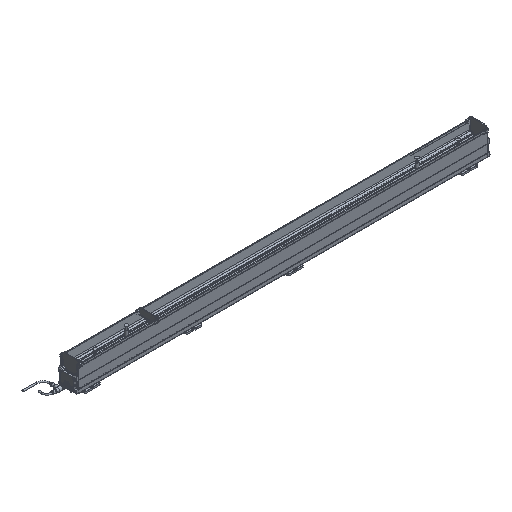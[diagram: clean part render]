
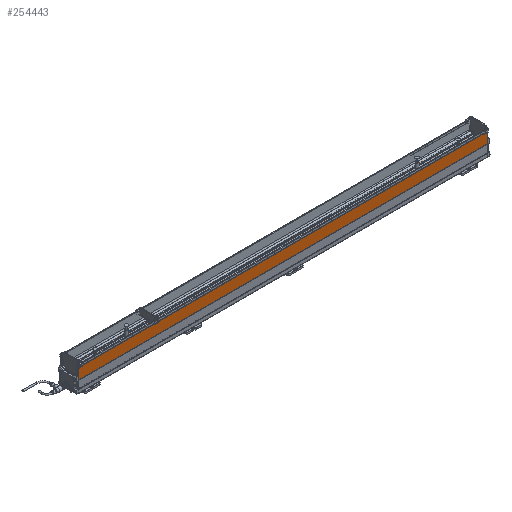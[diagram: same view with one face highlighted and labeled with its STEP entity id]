
A CAD part, isometric view. The second image highlights one B-rep face of the part: STEP entity #254443.
In plain terms, the highlighted planar face has unit normal (0, -1, 0) as drawn and (0, 1, 0) by its records, which use the part's own axes.
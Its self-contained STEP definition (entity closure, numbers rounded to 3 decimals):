
#89379=ORIENTED_EDGE('',*,*,#127226,.F.);
#89380=ORIENTED_EDGE('',*,*,#127191,.F.);
#89381=ORIENTED_EDGE('',*,*,#127225,.F.);
#89382=ORIENTED_EDGE('',*,*,#127130,.F.);
#109217=VECTOR('',#146755,1.);
#109244=VECTOR('',#146856,1.);
#109274=VECTOR('',#146950,1.);
#109275=VECTOR('',#146953,1.);
#114924=LINE('',#167367,#109217);
#114951=LINE('',#167490,#109244);
#114981=LINE('',#167556,#109274);
#114982=LINE('',#167558,#109275);
#120642=VERTEX_POINT('',#167364);
#120643=VERTEX_POINT('',#167366);
#120701=VERTEX_POINT('',#167487);
#120702=VERTEX_POINT('',#167489);
#127130=EDGE_CURVE('',#120642,#120643,#114924,.T.);
#127191=EDGE_CURVE('',#120701,#120702,#114951,.T.);
#127225=EDGE_CURVE('',#120643,#120701,#114981,.T.);
#127226=EDGE_CURVE('',#120702,#120642,#114982,.T.);
#137176=EDGE_LOOP('',(#89379,#89380,#89381,#89382));
#141866=FACE_BOUND('',#137176,.T.);
#146755=DIRECTION('',(36.287,0.,0.));
#146856=DIRECTION('',(-36.287,0.,0.));
#146950=DIRECTION('',(0.,0.,1410.));
#146951=DIRECTION('',(0.,1.,0.));
#146952=DIRECTION('',(1.,0.,0.));
#146953=DIRECTION('',(0.,0.,-1410.));
#167364=CARTESIAN_POINT('',(-29.322,15.,-1285.));
#167366=CARTESIAN_POINT('',(6.965,15.,-1285.));
#167367=CARTESIAN_POINT('',(-29.322,15.,-1285.));
#167487=CARTESIAN_POINT('',(6.965,15.,125.));
#167489=CARTESIAN_POINT('',(-29.322,15.,125.));
#167490=CARTESIAN_POINT('',(6.965,15.,125.));
#167556=CARTESIAN_POINT('',(6.965,15.,-1285.));
#167557=CARTESIAN_POINT('',(-29.322,15.,125.));
#167558=CARTESIAN_POINT('',(-29.322,15.,125.));
#245261=AXIS2_PLACEMENT_3D('',#167557,#146951,#146952);
#252593=PLANE('',#245261);
#254443=ADVANCED_FACE('',(#141866),#252593,.T.);
